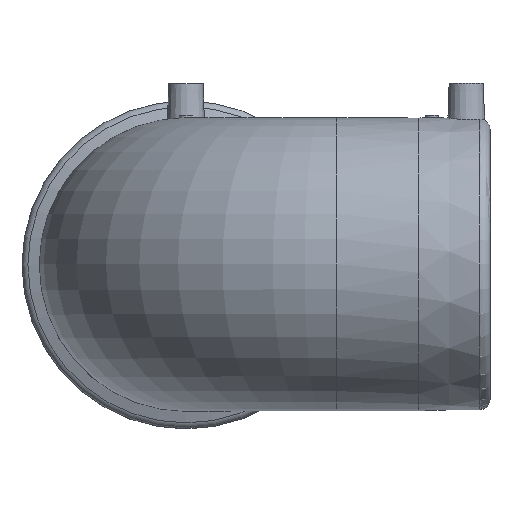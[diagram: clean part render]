
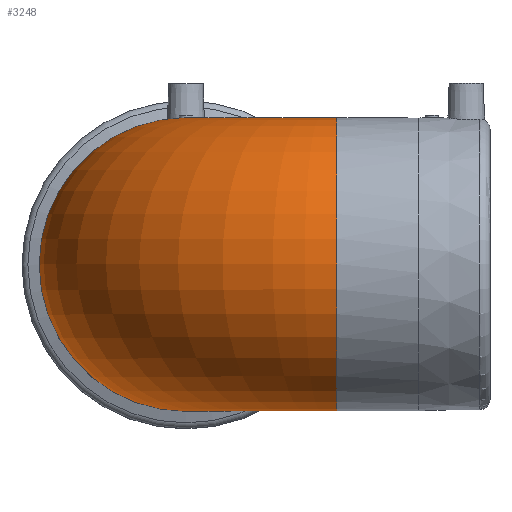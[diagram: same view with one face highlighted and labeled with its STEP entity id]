
A CAD part, top view. The second image highlights one B-rep face of the part: STEP entity #3248.
In plain terms, the highlighted toroidal (fillet/blend) face has major radius 70 mm and minor radius 68 mm.
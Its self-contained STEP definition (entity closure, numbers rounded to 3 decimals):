
#602=TOROIDAL_SURFACE('',#4183,70.,68.);
#622=CIRCLE('',#4173,68.);
#624=CIRCLE('',#4177,68.);
#864=ORIENTED_EDGE('',*,*,#1779,.F.);
#865=ORIENTED_EDGE('',*,*,#1781,.T.);
#1779=EDGE_CURVE('',#2243,#2243,#622,.F.);
#1781=EDGE_CURVE('',#2245,#2245,#624,.F.);
#2243=VERTEX_POINT('',#5730);
#2245=VERTEX_POINT('',#5736);
#2631=EDGE_LOOP('',(#864));
#2632=EDGE_LOOP('',(#865));
#2932=FACE_BOUND('',#2631,.T.);
#2933=FACE_BOUND('',#2632,.T.);
#3248=ADVANCED_FACE('',(#2932,#2933),#602,.T.);
#4173=AXIS2_PLACEMENT_3D('',#5729,#4620,#4621);
#4177=AXIS2_PLACEMENT_3D('',#5735,#4628,#4629);
#4183=AXIS2_PLACEMENT_3D('',#5772,#4640,#4641);
#4620=DIRECTION('',(-1.,0.,0.));
#4621=DIRECTION('',(0.,0.,-1.));
#4628=DIRECTION('',(0.,0.,-1.));
#4629=DIRECTION('',(1.,0.,0.));
#4640=DIRECTION('',(0.,1.,0.));
#4641=DIRECTION('',(0.,0.,1.));
#5729=CARTESIAN_POINT('',(70.,0.,141.));
#5730=CARTESIAN_POINT('',(70.,0.,73.));
#5735=CARTESIAN_POINT('',(0.,0.,71.));
#5736=CARTESIAN_POINT('',(68.,0.,71.));
#5772=CARTESIAN_POINT('',(70.,0.,71.));
